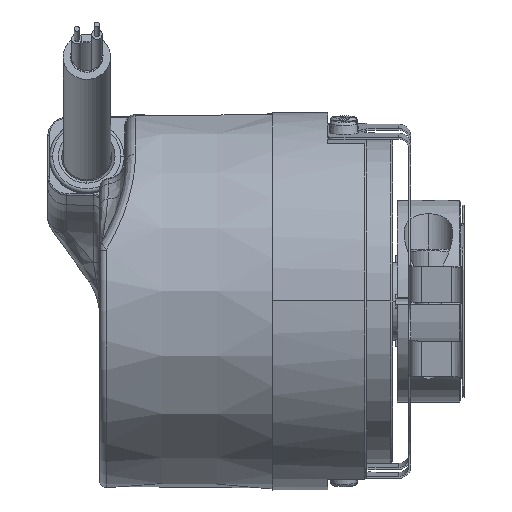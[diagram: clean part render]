
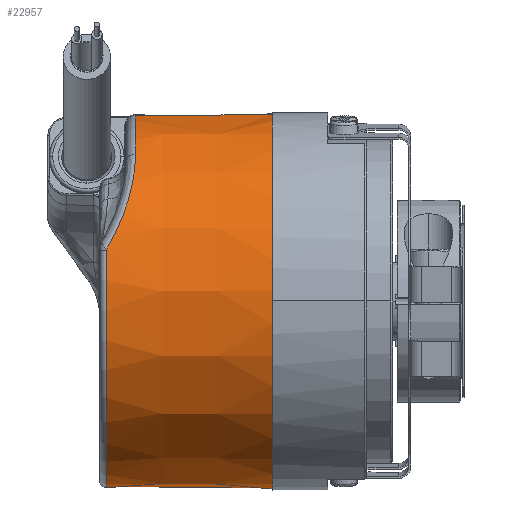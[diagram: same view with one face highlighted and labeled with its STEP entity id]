
A CAD part, top view. The second image highlights one B-rep face of the part: STEP entity #22957.
In plain terms, the highlighted conical face has half-angle 0.5 degrees and reference radius 29 mm.
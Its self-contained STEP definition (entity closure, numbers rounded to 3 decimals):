
#9487 = CARTESIAN_POINT ( 'NONE',  ( -17.253, 9.148, 27.195 ) ) ;
#9488 = CARTESIAN_POINT ( 'NONE',  ( -17.619, 8.483, 27.406 ) ) ;
#9489 = CARTESIAN_POINT ( 'NONE',  ( -16.255, 11.157, 26.444 ) ) ;
#9492 = CARTESIAN_POINT ( 'NONE',  ( -18.009, 7.822, 27.59 ) ) ;
#9493 = CARTESIAN_POINT ( 'NONE',  ( -16.572, 10.484, 26.715 ) ) ;
#13693 = CARTESIAN_POINT ( 'NONE',  ( 7.5, 28.684, 3.522 ) ) ;
#13709 = CARTESIAN_POINT ( 'NONE',  ( -13.513, 0., 0. ) ) ;
#13759 = CARTESIAN_POINT ( 'NONE',  ( -18.009, -28.463, -3.495 ) ) ;
#13760 = DIRECTION ( 'NONE',  ( 1., -0.009, -0.001 ) ) ;
#13761 = VECTOR ( 'NONE', #13760, 1000. ) ;
#13762 = CARTESIAN_POINT ( 'NONE',  ( 19., -28.784, -3.534 ) ) ;
#13763 = LINE ( 'NONE', #13762, #13761 ) ;
#13764 = CARTESIAN_POINT ( 'NONE',  ( -13.513, 22.576, 17.747 ) ) ;
#13765 = CARTESIAN_POINT ( 'NONE',  ( -13.513, 28.502, 3.5 ) ) ;
#13766 = DIRECTION ( 'NONE',  ( 0., -0.993, -0.122 ) ) ;
#13767 = DIRECTION ( 'NONE',  ( 1., 0., 0. ) ) ;
#13768 = AXIS2_PLACEMENT_3D ( 'NONE', #13709, #13767, #13766 ) ;
#13769 = CIRCLE ( 'NONE', #13768, 28.716 ) ;
#14136 = CARTESIAN_POINT ( 'NONE',  ( -18.009, 7.822, 27.59 ) ) ;
#14137 = DIRECTION ( 'NONE',  ( 0., 0.993, 0.122 ) ) ;
#14138 = DIRECTION ( 'NONE',  ( 1., 0., 0. ) ) ;
#14139 = CARTESIAN_POINT ( 'NONE',  ( -18.009, 0., 0. ) ) ;
#14140 = AXIS2_PLACEMENT_3D ( 'NONE', #14139, #14138, #14137 ) ;
#14141 = CIRCLE ( 'NONE', #14140, 28.677 ) ;
#14457 = CARTESIAN_POINT ( 'NONE',  ( 7.5, -28.684, -3.522 ) ) ;
#14494 = DIRECTION ( 'NONE',  ( 1., 0.009, 0.001 ) ) ;
#14495 = VECTOR ( 'NONE', #14494, 1000. ) ;
#14496 = CARTESIAN_POINT ( 'NONE',  ( 19., 28.784, 3.534 ) ) ;
#14497 = LINE ( 'NONE', #14496, #14495 ) ;
#15647 = CARTESIAN_POINT ( 'NONE',  ( -15.389, 13.156, 25.549 ) ) ;
#15648 = CARTESIAN_POINT ( 'NONE',  ( -14.923, 14.459, 24.842 ) ) ;
#15649 = CARTESIAN_POINT ( 'NONE',  ( -14.374, 16.358, 23.605 ) ) ;
#15650 = CARTESIAN_POINT ( 'NONE',  ( -14.216, 16.981, 23.163 ) ) ;
#15651 = CARTESIAN_POINT ( 'NONE',  ( -14.016, 17.9, 22.453 ) ) ;
#15652 = CARTESIAN_POINT ( 'NONE',  ( -13.955, 18.204, 22.207 ) ) ;
#15653 = CARTESIAN_POINT ( 'NONE',  ( -13.846, 18.801, 21.705 ) ) ;
#15654 = CARTESIAN_POINT ( 'NONE',  ( -13.798, 19.095, 21.448 ) ) ;
#15655 = CARTESIAN_POINT ( 'NONE',  ( -13.587, 20.534, 20.134 ) ) ;
#15656 = CARTESIAN_POINT ( 'NONE',  ( -13.513, 21.6, 18.988 ) ) ;
#15657 = CARTESIAN_POINT ( 'NONE',  ( -13.513, 22.576, 17.747 ) ) ;
#15665 = B_SPLINE_CURVE_WITH_KNOTS ( 'NONE', 3,
 ( #15657, #15656, #15655, #15654, #15653, #15652, #15651, #15650, #15649, #15648, #15647, #9489, #9493, #9487, #9488, #9492 ),
 .UNSPECIFIED., .F., .F.,
 ( 4, 2, 2, 2, 2, 2, 2, 4 ),
 ( 0., 0.005, 0.006, 0.007, 0.009, 0.014, 0.016, 0.019 ),
 .UNSPECIFIED. ) ;
#17063 = CARTESIAN_POINT ( 'NONE',  ( 19., 0., 0. ) ) ;
#17064 = CONICAL_SURFACE ( 'NONE', #17119, 29., 0.009 ) ;
#17079 = FACE_OUTER_BOUND ( 'NONE', #22958, .T. ) ;
#17112 = DIRECTION ( 'NONE',  ( 0., -0.993, -0.122 ) ) ;
#17113 = DIRECTION ( 'NONE',  ( 1., 0., 0. ) ) ;
#17114 = CARTESIAN_POINT ( 'NONE',  ( 7.5, 0., 0. ) ) ;
#17115 = AXIS2_PLACEMENT_3D ( 'NONE', #17114, #17113, #17112 ) ;
#17117 = DIRECTION ( 'NONE',  ( 0., -0.993, -0.122 ) ) ;
#17118 = DIRECTION ( 'NONE',  ( 1., 0., 0. ) ) ;
#17119 = AXIS2_PLACEMENT_3D ( 'NONE', #17063, #17118, #17117 ) ;
#17120 = CIRCLE ( 'NONE', #17115, 28.9 ) ;
#22040 = VERTEX_POINT ( 'NONE', #13693 ) ;
#22053 = EDGE_CURVE ( 'NONE', #22054, #22055, #13769, .T. ) ;
#22054 = VERTEX_POINT ( 'NONE', #13765 ) ;
#22055 = VERTEX_POINT ( 'NONE', #13764 ) ;
#22057 = EDGE_CURVE ( 'NONE', #22058, #22242, #13763, .T. ) ;
#22058 = VERTEX_POINT ( 'NONE', #13759 ) ;
#22148 = EDGE_CURVE ( 'NONE', #22149, #22058, #14141, .T. ) ;
#22149 = VERTEX_POINT ( 'NONE', #14136 ) ;
#22242 = VERTEX_POINT ( 'NONE', #14457 ) ;
#22245 = EDGE_CURVE ( 'NONE', #22054, #22040, #14497, .T. ) ;
#22661 = EDGE_CURVE ( 'NONE', #22055, #22149, #15665, .T. ) ;
#22957 = ADVANCED_FACE ( 'NONE', ( #17079 ), #17064, .T. ) ;
#22958 = EDGE_LOOP ( 'NONE', ( #22959, #22960, #22961, #22962, #22964, #22965 ) ) ;
#22959 = ORIENTED_EDGE ( 'NONE', *, *, #22245, .F. ) ;
#22960 = ORIENTED_EDGE ( 'NONE', *, *, #22053, .T. ) ;
#22961 = ORIENTED_EDGE ( 'NONE', *, *, #22661, .T. ) ;
#22962 = ORIENTED_EDGE ( 'NONE', *, *, #22148, .T. ) ;
#22964 = ORIENTED_EDGE ( 'NONE', *, *, #22057, .T. ) ;
#22965 = ORIENTED_EDGE ( 'NONE', *, *, #22966, .F. ) ;
#22966 = EDGE_CURVE ( 'NONE', #22040, #22242, #17120, .T. ) ;
